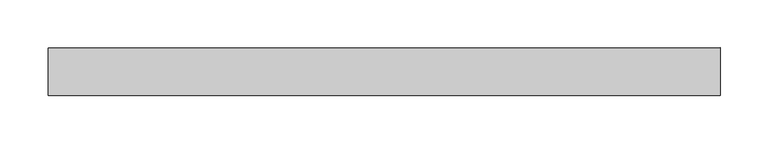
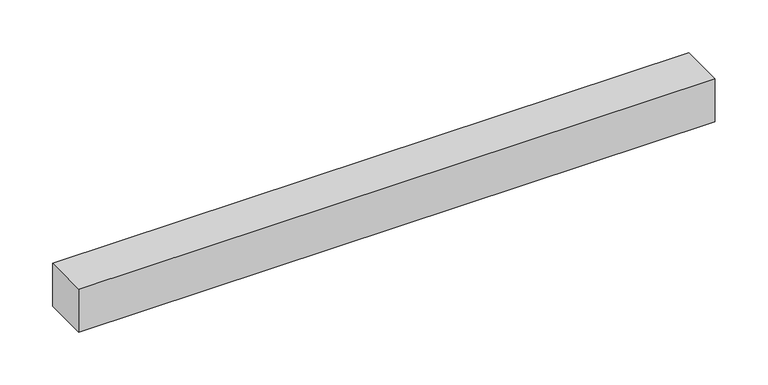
"""IFC4 building model written with IfcOpenShell, lengths in millimetres: light fixture geometry, AI_Luminaire_Réglette sanitaire : Reglette."""

from ifc_helpers import new_model, si_unit, frame, origin, place, context, project, spatial, polyline, outline, extrude, source, transform, mapped, element, save


def light_fixture_df64cae0(model_context):
    return source(origin(), model_context, "Body", "SweptSolid", [
        extrude(outline(polyline([(350.0, 0.0), (-350.0, 0.0), (-350.0, 50.0), (350.0, 50.0), (350.0, 0.0)])), frame((0.0, 0.0, -50.0), z_axis=(0.0, 0.0, 1.0), x_axis=(1.0, 0.0, 0.0)), (0.0, 0.0, 1.0), 50.0),
    ])


if __name__ == "__main__":
    model = new_model("IFC4")
    model_context = context("Model", 3, world=origin())
    ifc_project = project(units=[si_unit("LENGTHUNIT", "METRE", prefix="MILLI")], contexts=[model_context])
    site = spatial("IfcSite", under=ifc_project)
    building = spatial("IfcBuilding", under=site)
    placement = place(None, origin())
    light_fixture_shape = light_fixture_df64cae0(model_context)
    element("IfcLightFixture", 1, ObjectType="AI_Luminaire_Réglette sanitaire : Reglette", at=placement, inside=building, context=model_context, shape_type="MappedRepresentation", body=[
        mapped(light_fixture_shape, transform((0.0, 0.0, 0.0), x_axis=(1.0, 0.0, 0.0), y_axis=(0.0, 1.0, 0.0), z_axis=(0.0, 0.0, 1.0))),
    ])
    save(model, "model.ifc")
